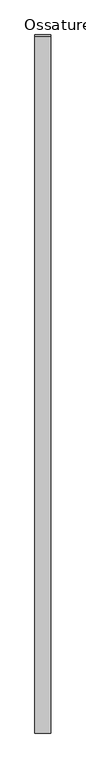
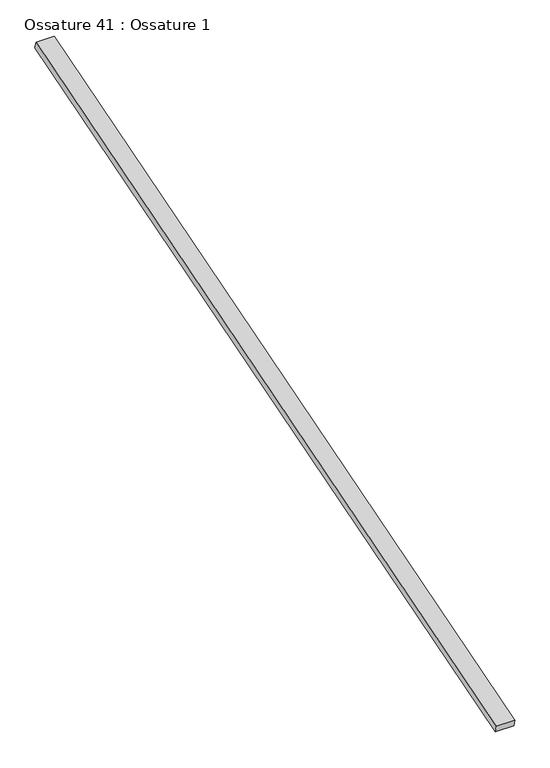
"""IFC4 building model written with IfcOpenShell, lengths in millimetres: beam geometry, Ossature 41 : Ossature 1."""

import ifcopenshell
import ifcopenshell.guid

model = None  # the IFC model being written
_history = None  # IfcOwnerHistory: only IFC2X3 demands one
_inside = {}  # id of a spatial element -> (the spatial element, [elements in it])
_under = {}  # id of a project, library or spatial element -> (it, [spatial elements below it])
_declared = {}  # id of a project -> (the project, [libraries it declares])
_typed = {}  # id of a type object -> (the type object, [elements of that type])
_made_of = {}  # id of a material, layer set ... -> (it, [elements and type objects made of it])


def new_model(schema):
    """Start an empty IFC model of exactly this schema.

    Asked for "IFC4X3", IfcOpenShell would pick the latest addendum, in which some entities
    have other attributes; the version numbers below select the first issue.
    IFC2X3 requires an IfcOwnerHistory on every rooted entity: one is made here for all.
    """
    global model, _history
    if schema == "IFC4X3":
        model = ifcopenshell.file(schema_version=(4, 3, 0, 0))
    else:
        model = ifcopenshell.file(schema=schema)
    _inside.clear()
    _under.clear()
    _declared.clear()
    _typed.clear()
    _made_of.clear()
    _history = None
    if model.schema == "IFC2X3":
        org = make("IfcOrganization", Name="unknown")
        user = make(
            "IfcPersonAndOrganization",
            ThePerson=make("IfcPerson", FamilyName="unknown"),
            TheOrganization=org,
        )
        app = make(
            "IfcApplication",
            ApplicationDeveloper=org,
            Version="unknown",
            ApplicationFullName="unknown",
            ApplicationIdentifier="unknown",
        )
        _history = make(
            "IfcOwnerHistory",
            OwningUser=user,
            OwningApplication=app,
            ChangeAction="ADDED",
            CreationDate=0,
        )
    return model


def make(cls, **values):
    """One entity of the class cls with the attributes given. An attribute that is None is left unset."""
    return model.create_entity(
        cls, **{name: value for name, value in values.items() if value is not None}
    )


def rooted(cls, **values):
    """An entity with a GlobalId (a new one), such as an element, a storey or a relation."""
    return make(cls, GlobalId=ifcopenshell.guid.new(), OwnerHistory=_history, **values)


def si_unit(unit_type, name, prefix=None):
    """IfcSIUnit, for example si_unit("LENGTHUNIT", "METRE", prefix="MILLI")."""
    return make("IfcSIUnit", UnitType=unit_type, Prefix=prefix, Name=name)


def assignment(units):
    """IfcUnitAssignment: the units of a project."""
    return None if units is None else make("IfcUnitAssignment", Units=units)


def point(xyz):
    """IfcCartesianPoint."""
    return None if xyz is None else make("IfcCartesianPoint", Coordinates=xyz)


def direction(xyz):
    """IfcDirection."""
    return None if xyz is None else make("IfcDirection", DirectionRatios=xyz)


def frame(location, z_axis=None, x_axis=None):
    """IfcAxis2Placement3D, a coordinate frame: its origin and axes. An axis left out is left unset."""
    return make(
        "IfcAxis2Placement3D",
        Location=point(location),
        Axis=direction(z_axis),
        RefDirection=direction(x_axis),
    )


def origin():
    """The frame at (0, 0, 0) with its axes left unset."""
    return frame((0.0, 0.0, 0.0))


def place(relative_to, where):
    """IfcLocalPlacement: puts the frame where relative to a parent placement (None: the world)."""
    return make(
        "IfcLocalPlacement", PlacementRelTo=relative_to, RelativePlacement=where
    )


def context(
    kind, dimensions, precision=None, world=None, true_north=None, identifier=None
):
    """IfcGeometricRepresentationContext, for example the 3D "Model" context."""
    return make(
        "IfcGeometricRepresentationContext",
        ContextIdentifier=identifier,
        ContextType=kind,
        CoordinateSpaceDimension=dimensions,
        Precision=precision,
        WorldCoordinateSystem=world,
        TrueNorth=true_north,
    )


def project(units=None, contexts=None):
    """IfcProject with its units and contexts."""
    return rooted(
        "IfcProject",
        Name="project",
        RepresentationContexts=contexts,
        UnitsInContext=assignment(units),
    )


def spatial(cls, under=None, at=None, **own):
    """A site, building, storey or space (cls), placed at a placement, below another one or the project."""
    s = rooted(cls, ObjectPlacement=at, **own)
    if under is not None:
        _under.setdefault(under.id(), (under, []))[1].append(s)
    return s


def polyline(points):
    """IfcPolyline through the points."""
    return make("IfcPolyline", Points=[point(p) for p in points])


def outline(outer, holes=None, kind="AREA"):
    """IfcArbitraryClosedProfileDef: a profile drawn as a closed curve; with holes, ...WithVoids."""
    if holes is None:
        return make("IfcArbitraryClosedProfileDef", ProfileType=kind, OuterCurve=outer)
    return make(
        "IfcArbitraryProfileDefWithVoids",
        ProfileType=kind,
        OuterCurve=outer,
        InnerCurves=holes,
    )


def extrude(swept, where, along, depth):
    """IfcExtrudedAreaSolid: the profile swept, set in the frame where, extruded along a direction by depth."""
    return make(
        "IfcExtrudedAreaSolid",
        SweptArea=swept,
        Position=where,
        ExtrudedDirection=direction(along),
        Depth=depth,
    )


def shape(context_of_items, identifier, shape_type, items):
    """IfcShapeRepresentation: the items that make up one representation, for example the "Body"."""
    return make(
        "IfcShapeRepresentation",
        ContextOfItems=context_of_items,
        RepresentationIdentifier=identifier,
        RepresentationType=shape_type,
        Items=items,
    )


def source(mapping_origin, context_of_items, identifier, shape_type, items):
    """IfcRepresentationMap: a shape defined once, which mapped items show again and again."""
    return make(
        "IfcRepresentationMap",
        MappingOrigin=mapping_origin,
        MappedRepresentation=shape(context_of_items, identifier, shape_type, items),
    )


def transform(
    local_origin,
    x_axis=None,
    y_axis=None,
    z_axis=None,
    scale=None,
    scale2=None,
    scale3=None,
    uniform=True,
):
    """IfcCartesianTransformationOperator3D, or its non-uniform kind. x_axis, y_axis, z_axis: its Axis1, 2, 3."""
    if uniform:
        return make(
            "IfcCartesianTransformationOperator3D",
            Axis1=direction(x_axis),
            Axis2=direction(y_axis),
            LocalOrigin=point(local_origin),
            Scale=scale,
            Axis3=direction(z_axis),
        )
    return make(
        "IfcCartesianTransformationOperator3DnonUniform",
        Axis1=direction(x_axis),
        Axis2=direction(y_axis),
        LocalOrigin=point(local_origin),
        Scale=scale,
        Axis3=direction(z_axis),
        Scale2=scale2,
        Scale3=scale3,
    )


def mapped(mapping_source, mapping_target):
    """IfcMappedItem: shows the shape of a source again, moved by a transform."""
    return make(
        "IfcMappedItem", MappingSource=mapping_source, MappingTarget=mapping_target
    )


def made_of(thing, what):
    """Note that an element or type object is made of a material, layer set ...; save() writes the relation."""
    if what is not None:
        _made_of.setdefault(what.id(), (what, []))[1].append(thing)
    return thing


def element(
    cls,
    number,
    at=None,
    inside=None,
    cuts=None,
    type_object=None,
    material=None,
    context=None,
    identifier="Body",
    shape_type=None,
    held_by="IfcProductDefinitionShape",
    body=None,
    shapes=None,
    **own,
):
    """One element of the class cls, such as IfcWall. Its Tag is "e" and its number.

    at: its placement. inside: the storey or other place that contains it. cuts: it is an
    opening in that element (IfcRelVoidsElement). A single representation is given by context,
    identifier, shape_type and body (its items); several are given by shapes. held_by: the class
    of the entity that holds the representations. save() writes the other relations.
    """
    e = rooted(cls, Tag="e%d" % number, ObjectPlacement=at, **own)
    if body is not None:
        shapes = [shape(context, identifier, shape_type, body)]
    if shapes is not None:
        e.Representation = make(held_by, Representations=shapes)
    if inside is not None:
        _inside.setdefault(inside.id(), (inside, []))[1].append(e)
    if cuts is not None:
        rooted(
            "IfcRelVoidsElement", RelatingBuildingElement=cuts, RelatedOpeningElement=e
        )
    if type_object is not None:
        _typed.setdefault(type_object.id(), (type_object, []))[1].append(e)
    return made_of(e, material)


def aggregate(whole, parts):
    """IfcRelAggregates: a whole, such as a stair, and the parts it consists of."""
    return rooted("IfcRelAggregates", RelatingObject=whole, RelatedObjects=parts)


def save(model, path):
    """Write the relations noted so far, then the file.

    IfcRelAggregates (storeys below a building ...), IfcRelContainedInSpatialStructure (elements
    in a storey), IfcRelDefinesByType, IfcRelAssociatesMaterial and IfcRelDeclares: one each for
    every whole, place, type object, material and project.
    """
    for whole, parts in _under.values():
        aggregate(whole, parts)
    for where, things in _inside.values():
        rooted(
            "IfcRelContainedInSpatialStructure",
            RelatedElements=things,
            RelatingStructure=where,
        )
    for kind, things in _typed.values():
        rooted("IfcRelDefinesByType", RelatedObjects=things, RelatingType=kind)
    for what, things in _made_of.values():
        rooted("IfcRelAssociatesMaterial", RelatedObjects=things, RelatingMaterial=what)
    for by, libraries in _declared.values():
        rooted("IfcRelDeclares", RelatingContext=by, RelatedDefinitions=libraries)
    model.write(path)


def ossature_41_ossature_1_be239525(model_context):
    return source(origin(), model_context, "Body", "SweptSolid", [
        extrude(outline(polyline([(0.0, 0.0), (0.0, -4543.0299679), (-100.0, -4543.0299679), (-100.0, 0.0), (0.0, 0.0)])), frame((10065.4466393, -833.3913565, 8153.6336115), z_axis=(0.0, -0.28734788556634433, 0.9578262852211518), x_axis=(-1.0, 0.0, 0.0)), (0.0, 0.0, 1.0), 40.0),
    ])


if __name__ == "__main__":
    model = new_model("IFC4")
    model_context = context("Model", 3, world=origin())
    ifc_project = project(units=[si_unit("LENGTHUNIT", "METRE", prefix="MILLI")], contexts=[model_context])
    site = spatial("IfcSite", under=ifc_project)
    building = spatial("IfcBuilding", under=site)
    placement = place(None, origin())
    ossature_41_ossature_1_shape = ossature_41_ossature_1_be239525(model_context)
    element("IfcBeam", 1, ObjectType="Ossature 41 : Ossature 1", at=placement, inside=building, context=model_context, shape_type="MappedRepresentation", body=[
        mapped(ossature_41_ossature_1_shape, transform((0.0, 0.0, 0.0), x_axis=(1.0, 0.0, 0.0), y_axis=(0.0, 1.0, 0.0), z_axis=(0.0, 0.0, 1.0))),
    ])
    save(model, "model.ifc")
